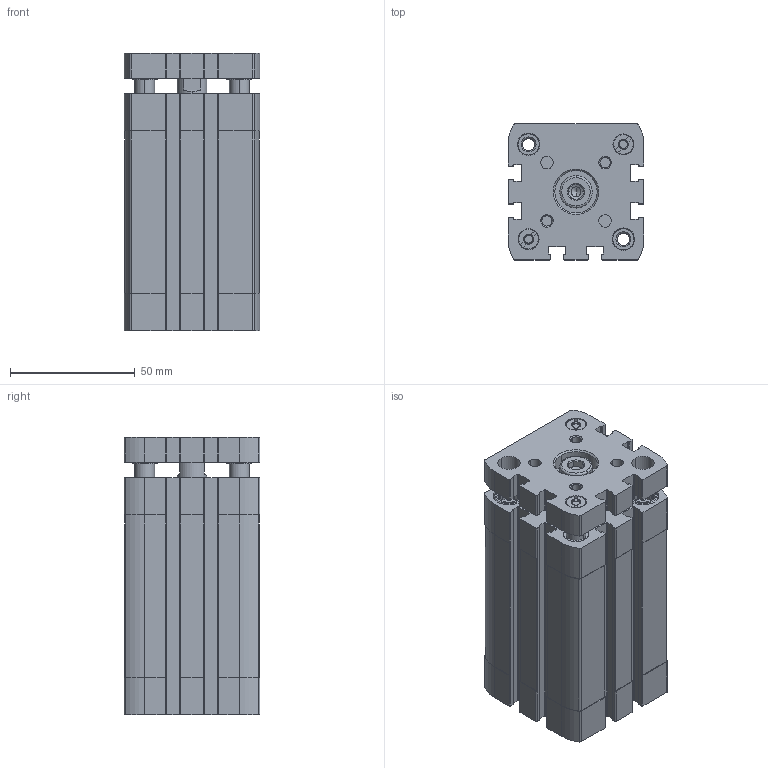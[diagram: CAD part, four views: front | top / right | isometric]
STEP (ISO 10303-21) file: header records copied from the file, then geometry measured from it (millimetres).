
FILE_DESCRIPTION (( 'STEP AP203' ), '1' );
FILE_NAME ('CCNG40-50.STEP', '2017-04-13T19:44:13', ( '' ), ( '' ), 'SwSTEP 2.0', 'SolidWorks 2016', '' );
FILE_SCHEMA (( 'CONFIG_CONTROL_DESIGN' ));
Length unit declared in the file: millimetre
Products named in the file (3): CCNG-40-50---(Z); CCNG-40-50----(KS); CCNG40-50
Assembly tree (2 placements, depth 2):
  CCNG40-50
    CCNG-40-50---(Z)
    CCNG-40-50----(KS)
Bounding box: 54.5 x 54.5 x 111.1 mm (x, y, z)
Volume: 214300.5 mm3; surface area: 74883 mm2
Topology: 2 solids, 4 shells, 715 faces, 1929 edges, 1264 vertices
Faces by surface type: plane 363, cylinder 274, cone 72, bspline 6
Entity records: 23185 total; most frequent: CARTESIAN_POINT 4447, DIRECTION 3974, ORIENTED_EDGE 3854, EDGE_CURVE 1927, AXIS2_PLACEMENT_3D 1467, VERTEX_POINT 1264, LINE 1040, VECTOR 1040
